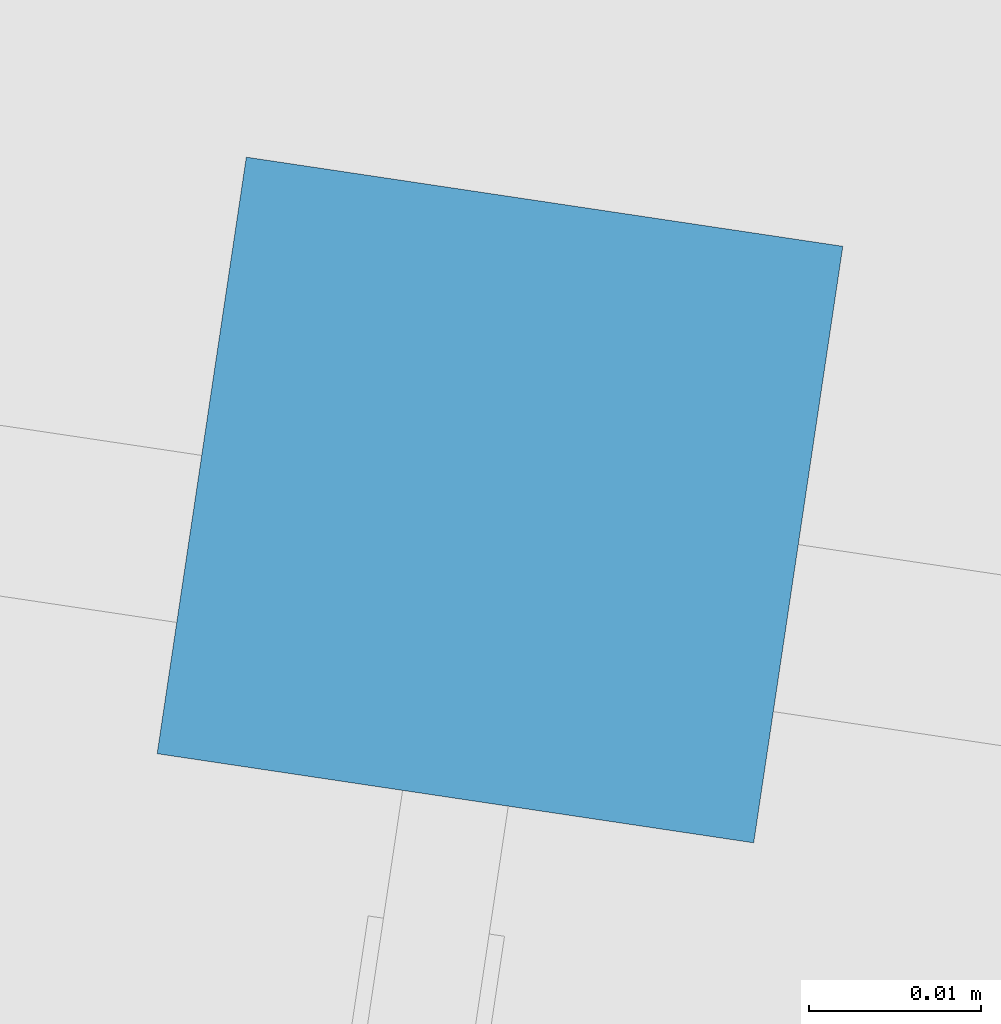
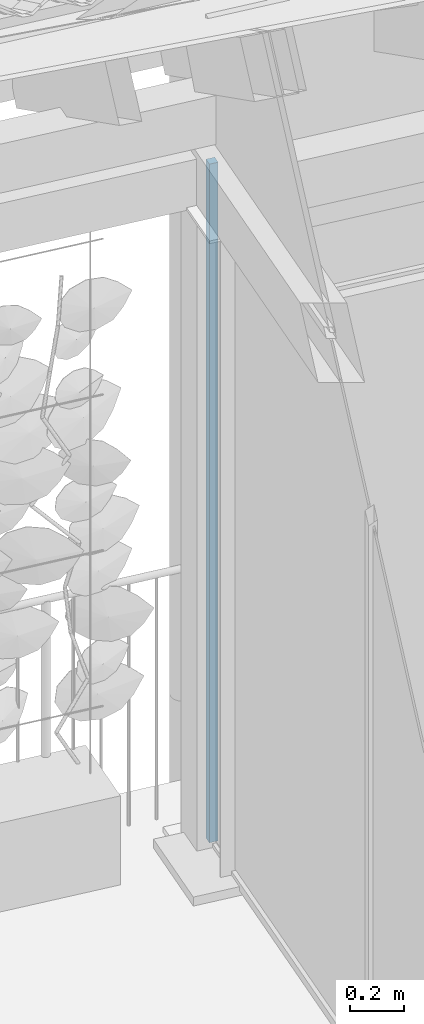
# One storey, part 41 of 131: 1 member.
"""IFC4 building model written with IfcOpenShell, lengths in metres."""

from ifc_helpers import new_model, si_unit, direction, frame, origin_with_axes, place, context, subcontext, project, spatial, rectangle, extrude, material, material_profile, profile_set, profile_usage, type_object, element, save


model = new_model("IFC4")

# Units and contexts
model_context = context("Model", 3, precision=1e-05, world=origin_with_axes(), true_north=direction((0.0, 1.0)))
body_context = subcontext(model_context, "Body", "Model", "MODEL_VIEW")
ifc_project = project(units=[si_unit("VOLUMEUNIT", "CUBIC_METRE"), si_unit("LENGTHUNIT", "METRE"), si_unit("AREAUNIT", "SQUARE_METRE")], contexts=[model_context])

# Site, building, storey
site_placement = place(None, origin_with_axes())
site = spatial("IfcSite", under=ifc_project, at=site_placement, Name="Lares · Rua das Mercês · artigo 4771")
building_placement = place(site_placement, frame((15.0, 9.7, 15.8), z_axis=(0.0, 0.0, 1.0), x_axis=(0.989015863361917, -0.147809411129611, 0.0)))
building = spatial("IfcBuilding", under=site, at=building_placement, Name="Casa Sobreposta")
storey_placement = place(building_placement, origin_with_axes())
storey = spatial("IfcBuildingStorey", under=building, at=storey_placement, Name="00 · Habitação e estacionamento", Elevation=15.8)

# Member
ifc_material = material(Name="Aço pintado / Stahl lackiert", Category="steel")
ifc_material_profile = material_profile(ifc_material, rectangle(XDim=0.035, YDim=0.035))
ifc_profile_set = profile_set([ifc_material_profile], Name="R0.035")
ifc_profile_usage = profile_usage(ifc_profile_set)
member_type = type_object("IfcMemberType", Name="R0.035 / steel", PredefinedType="NOTDEFINED", material=ifc_profile_set)
member_placement = place(storey_placement, frame((0.0, 6.4, 0.0), z_axis=(0.0, 0.0, 1.0), x_axis=(1.0, 0.0, 0.0)))
element("IfcMember", 1, at=member_placement, inside=storey, type_object=member_type, material=ifc_profile_usage, Name="Fachada poente integralmente envidraçada · módulo 4 · montante", context=body_context, shape_type="SweptSolid", body=[
    extrude(rectangle(XDim=0.035, YDim=0.035), origin_with_axes(), (0.0, 0.0, 1.0), 3.05),
])

save(model, "model.ifc")
